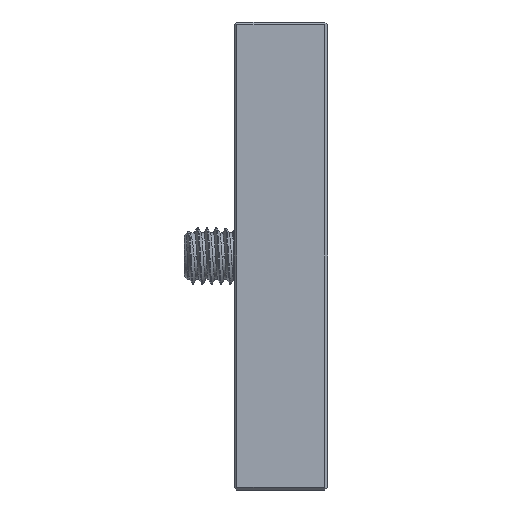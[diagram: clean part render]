
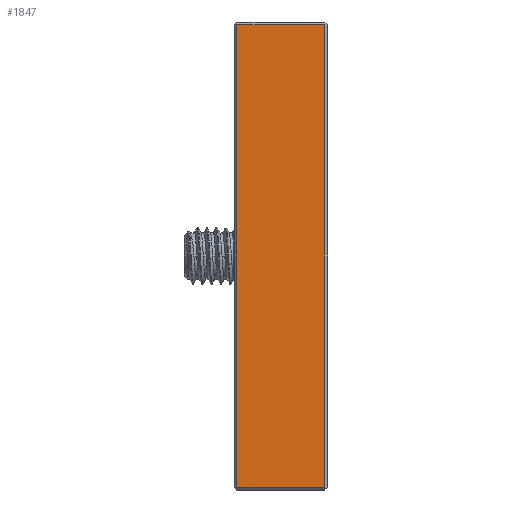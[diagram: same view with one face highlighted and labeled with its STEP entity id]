
A CAD part, left-side view. The second image highlights one B-rep face of the part: STEP entity #1847.
In plain terms, the highlighted planar face has unit normal (-1, 0, 0).
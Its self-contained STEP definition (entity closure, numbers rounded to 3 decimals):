
#303=DIRECTION('',(0.,0.,1.));
#304=VECTOR('',#303,49.4);
#305=CARTESIAN_POINT('',(-37.5,9.7,-24.7));
#306=LINE('',#305,#304);
#307=DIRECTION('',(0.,-1.,0.));
#308=VECTOR('',#307,9.4);
#309=CARTESIAN_POINT('',(-37.5,9.7,24.7));
#310=LINE('',#309,#308);
#311=DIRECTION('',(0.,0.,-1.));
#312=VECTOR('',#311,49.4);
#313=CARTESIAN_POINT('',(-37.5,0.3,24.7));
#314=LINE('',#313,#312);
#315=DIRECTION('',(0.,-1.,0.));
#316=VECTOR('',#315,9.4);
#317=CARTESIAN_POINT('',(-37.5,9.7,-24.7));
#318=LINE('',#317,#316);
#1275=CARTESIAN_POINT('',(-37.5,9.7,-24.7));
#1276=CARTESIAN_POINT('',(-37.5,9.7,24.7));
#1277=VERTEX_POINT('',#1275);
#1278=VERTEX_POINT('',#1276);
#1279=CARTESIAN_POINT('',(-37.5,0.3,24.7));
#1280=CARTESIAN_POINT('',(-37.5,0.3,-24.7));
#1281=VERTEX_POINT('',#1279);
#1282=VERTEX_POINT('',#1280);
#1834=CARTESIAN_POINT('',(-37.5,0.,-25.));
#1835=DIRECTION('',(-1.,0.,0.));
#1836=DIRECTION('',(0.,0.,1.));
#1837=AXIS2_PLACEMENT_3D('',#1834,#1835,#1836);
#1838=PLANE('',#1837);
#1840=ORIENTED_EDGE('',*,*,#1839,.T.);
#1841=ORIENTED_EDGE('',*,*,#1796,.T.);
#1842=ORIENTED_EDGE('',*,*,#1822,.T.);
#1844=ORIENTED_EDGE('',*,*,#1843,.F.);
#1845=EDGE_LOOP('',(#1840,#1841,#1842,#1844));
#1846=FACE_OUTER_BOUND('',#1845,.F.);
#1847=ADVANCED_FACE('',(#1846),#1838,.T.);
#1796=EDGE_CURVE('',#1278,#1281,#310,.T.);
#1822=EDGE_CURVE('',#1281,#1282,#314,.T.);
#1839=EDGE_CURVE('',#1277,#1278,#306,.T.);
#1843=EDGE_CURVE('',#1277,#1282,#318,.T.);
